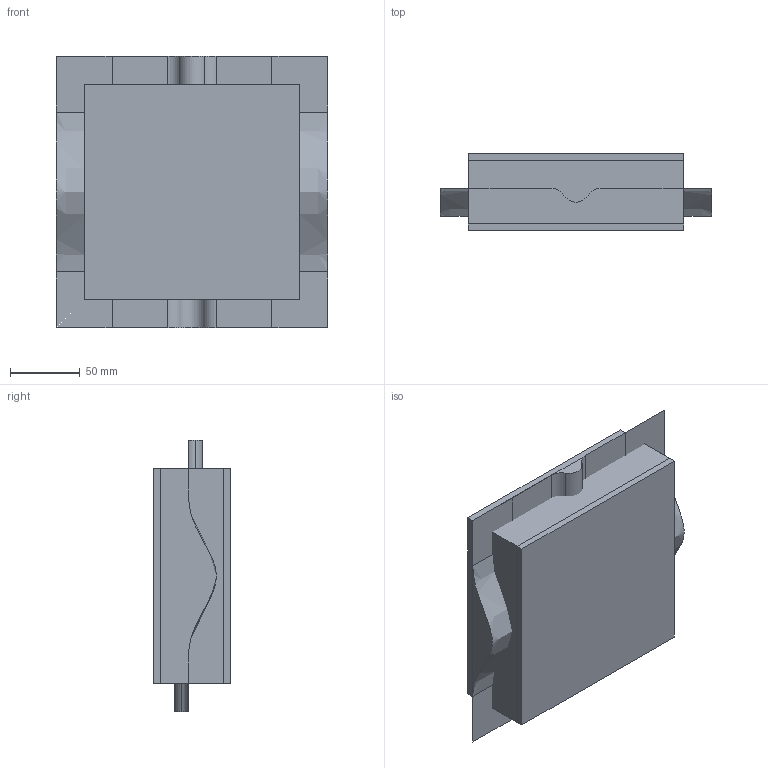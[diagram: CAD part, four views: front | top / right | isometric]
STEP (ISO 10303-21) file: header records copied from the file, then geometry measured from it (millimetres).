
FILE_DESCRIPTION(('CATIA V5 STEP Exchange'),'2;1');
FILE_NAME('C:\_Andres\UNIVERSIDAD\IQS\ASIGNATURAS\DAO\EXF\EXF-16172c\2inicio\Homs_Ruano_Ej02_v15.stp','2017-03-05T15:45:25+00:00',('none'),('none'),'CATIA Version 5-6 Release 2014 SP1 HF18','CATIA V5 STEP AP203','none');
FILE_SCHEMA(('CONFIG_CONTROL_DESIGN'));
Length unit declared in the file: millimetre
Products named in the file (1): Homs_Ruano_Ej02_v15
Bounding box: 195 x 55 x 195 mm (x, y, z)
Surface area: 244056.4 mm2
Topology: 3 solids, 10 shells, 72 faces, 205 edges, 150 vertices
Faces by surface type: bspline 32, plane 32, cylinder 6, extrusion 2
Entity records: 6638 total; most frequent: CARTESIAN_POINT 5321, ORIENTED_EDGE 288, DIRECTION 151, EDGE_CURVE 132, VERTEX_POINT 84, VECTOR 77, LINE 75, ADVANCED_FACE 72
